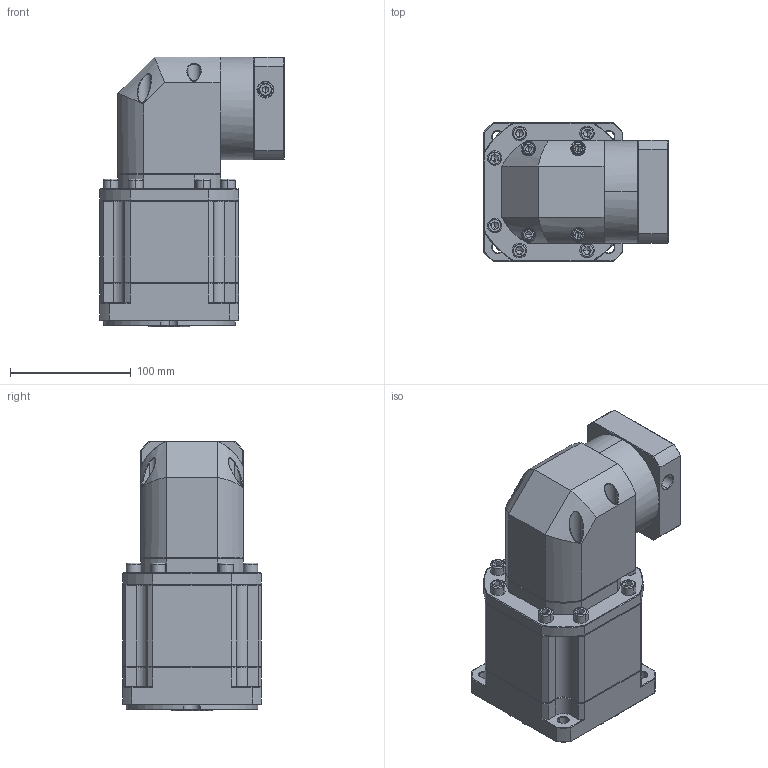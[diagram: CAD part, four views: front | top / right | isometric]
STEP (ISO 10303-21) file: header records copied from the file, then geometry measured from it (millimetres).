
FILE_DESCRIPTION (( 'STEP AP214' ), '1' );
FILE_NAME ('ZBR115A-K25-L3-P2-12.7-73-69.6X69.6-M6.step', '2023-08-26T13:36:58', ( '' ), ( '' ), 'SwSTEP 2.0', 'SolidWorks 2016', '' );
FILE_SCHEMA (( 'AUTOMOTIVE_DESIGN' ));
Length unit declared in the file: millimetre
Products named in the file (1): ZBR115A-K25-L3-P2-12.7-73-69.6X69.6-M6
Bounding box: 152.6 x 115 x 223.5 mm (x, y, z)
Volume: 2219866.2 mm3; surface area: 187144.7 mm2
Topology: 6 solids, 6 shells, 2540 faces, 6572 edges, 4141 vertices
Faces by surface type: plane 1274, cylinder 444, bspline 442, cone 366, torus 14
Entity records: 131810 total; most frequent: CARTESIAN_POINT 45537, ORIENTED_EDGE 13040, DIRECTION 10509, EDGE_CURVE 6520, LINE 4229, VECTOR 4229, VERTEX_POINT 4141, AXIS2_PLACEMENT_3D 3140
